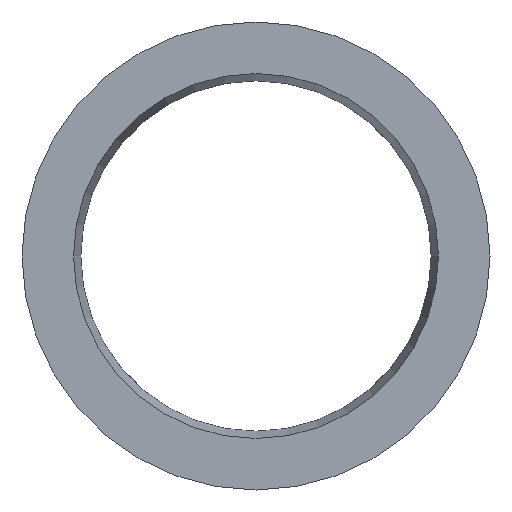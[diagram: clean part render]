
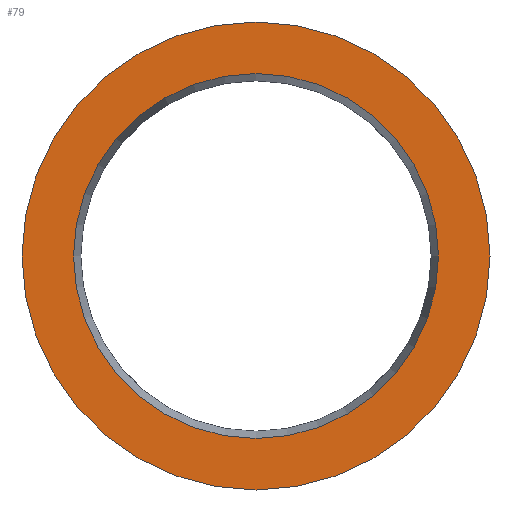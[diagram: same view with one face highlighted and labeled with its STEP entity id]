
A CAD part, front view. The second image highlights one B-rep face of the part: STEP entity #79.
In plain terms, the highlighted planar face has unit normal (0, -1, 0).
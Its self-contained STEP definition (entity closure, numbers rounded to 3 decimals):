
#79 = ADVANCED_FACE( '', ( #94, #95 ), #96, .T. );
#94 = FACE_OUTER_BOUND( '', #112, .T. );
#95 = FACE_BOUND( '', #113, .T. );
#96 = PLANE( '', #114 );
#112 = EDGE_LOOP( '', ( #138 ) );
#113 = EDGE_LOOP( '', ( #139 ) );
#114 = AXIS2_PLACEMENT_3D( '', #140, #141, #142 );
#138 = ORIENTED_EDGE( '', *, *, #153, .T. );
#139 = ORIENTED_EDGE( '', *, *, #152, .F. );
#140 = CARTESIAN_POINT( '', ( 8.5, 0., 0. ) );
#141 = DIRECTION( '', ( 0., -1., 0. ) );
#142 = DIRECTION( '', ( 0., 0., -1. ) );
#152 = EDGE_CURVE( '', #162, #162, #163, .T. );
#153 = EDGE_CURVE( '', #164, #164, #165, .T. );
#162 = VERTEX_POINT( '', #174 );
#163 = CIRCLE( '', #175, 8.5 );
#164 = VERTEX_POINT( '', #176 );
#165 = CIRCLE( '', #177, 10.9 );
#174 = CARTESIAN_POINT( '', ( 0., 0., -8.5 ) );
#175 = AXIS2_PLACEMENT_3D( '', #190, #191, #192 );
#176 = CARTESIAN_POINT( '', ( 0., 0., -10.9 ) );
#177 = AXIS2_PLACEMENT_3D( '', #193, #194, #195 );
#190 = CARTESIAN_POINT( '', ( 0., 0., 0. ) );
#191 = DIRECTION( '', ( 0., -1., 0. ) );
#192 = DIRECTION( '', ( 0., 0., -1. ) );
#193 = CARTESIAN_POINT( '', ( 0., 0., 0. ) );
#194 = DIRECTION( '', ( 0., -1., 0. ) );
#195 = DIRECTION( '', ( 0., 0., -1. ) );
